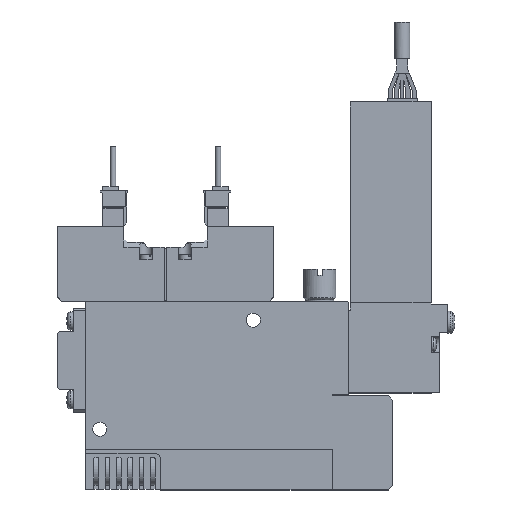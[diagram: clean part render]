
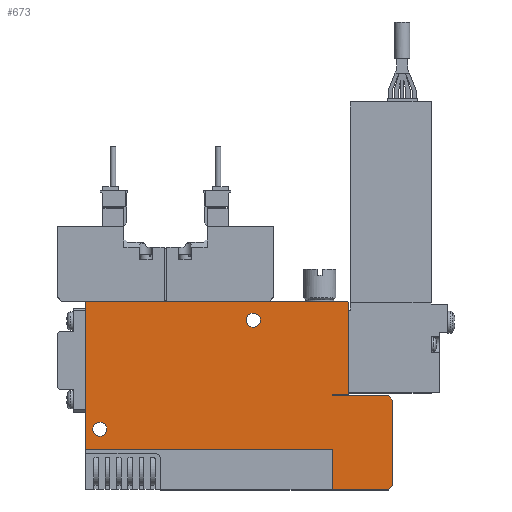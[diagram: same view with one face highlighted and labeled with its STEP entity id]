
A CAD part, top view. The second image highlights one B-rep face of the part: STEP entity #673.
In plain terms, the highlighted planar face has unit normal (0, 0, 1).
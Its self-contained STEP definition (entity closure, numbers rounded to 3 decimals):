
#673=ADVANCED_FACE('',(#1593,#1594,#1595),#1596,.F.);
#1593=FACE_OUTER_BOUND('',#2714,.T.);
#1594=FACE_BOUND('',#2715,.T.);
#1595=FACE_BOUND('',#2716,.T.);
#1596=PLANE('',#2717);
#2714=EDGE_LOOP('',(#5938,#5939,#5940,#5941,#5942,#5943,#5944,#5945,#5946,#5947,#5948,#5949,#5950,#5951));
#2715=EDGE_LOOP('',(#5952));
#2716=EDGE_LOOP('',(#5953));
#2717=AXIS2_PLACEMENT_3D('',#5954,#5955,#5956);
#5938=ORIENTED_EDGE('',*,*,#8325,.T.);
#5939=ORIENTED_EDGE('',*,*,#8326,.F.);
#5940=ORIENTED_EDGE('',*,*,#8327,.F.);
#5941=ORIENTED_EDGE('',*,*,#8328,.T.);
#5942=ORIENTED_EDGE('',*,*,#8329,.T.);
#5943=ORIENTED_EDGE('',*,*,#8330,.T.);
#5944=ORIENTED_EDGE('',*,*,#8331,.T.);
#5945=ORIENTED_EDGE('',*,*,#8332,.T.);
#5946=ORIENTED_EDGE('',*,*,#8333,.T.);
#5947=ORIENTED_EDGE('',*,*,#8334,.T.);
#5948=ORIENTED_EDGE('',*,*,#8335,.T.);
#5949=ORIENTED_EDGE('',*,*,#8307,.T.);
#5950=ORIENTED_EDGE('',*,*,#8336,.T.);
#5951=ORIENTED_EDGE('',*,*,#8337,.T.);
#5952=ORIENTED_EDGE('',*,*,#8338,.F.);
#5953=ORIENTED_EDGE('',*,*,#8339,.F.);
#5954=CARTESIAN_POINT('',(0.0,0.0,5.0));
#5955=DIRECTION('',(0.0,0.0,-1.0));
#5956=DIRECTION('',(0.0,-1.0,0.0));
#8307=EDGE_CURVE('',#10303,#10301,#10304,.T.);
#8325=EDGE_CURVE('',#10337,#10338,#10339,.T.);
#8326=EDGE_CURVE('',#10340,#10338,#10341,.T.);
#8327=EDGE_CURVE('',#10342,#10340,#10343,.T.);
#8328=EDGE_CURVE('',#10342,#10344,#10345,.T.);
#8329=EDGE_CURVE('',#10344,#10346,#10347,.T.);
#8330=EDGE_CURVE('',#10346,#10348,#10349,.T.);
#8331=EDGE_CURVE('',#10348,#10350,#10351,.T.);
#8332=EDGE_CURVE('',#10350,#10352,#10353,.T.);
#8333=EDGE_CURVE('',#10352,#10354,#10355,.T.);
#8334=EDGE_CURVE('',#10354,#10356,#10357,.T.);
#8335=EDGE_CURVE('',#10356,#10303,#10358,.T.);
#8336=EDGE_CURVE('',#10301,#10359,#10360,.T.);
#8337=EDGE_CURVE('',#10359,#10337,#10361,.T.);
#8338=EDGE_CURVE('',#10362,#10362,#10363,.T.);
#8339=EDGE_CURVE('',#10364,#10364,#10365,.T.);
#10301=VERTEX_POINT('',#13566);
#10303=VERTEX_POINT('',#13569);
#10304=LINE('',#13570,#13571);
#10337=VERTEX_POINT('',#13618);
#10338=VERTEX_POINT('',#13619);
#10339=LINE('',#13620,#13621);
#10340=VERTEX_POINT('',#13622);
#10341=LINE('',#13623,#13624);
#10342=VERTEX_POINT('',#13625);
#10343=LINE('',#13626,#13627);
#10344=VERTEX_POINT('',#13628);
#10345=LINE('',#13629,#13630);
#10346=VERTEX_POINT('',#13631);
#10347=LINE('',#13632,#13633);
#10348=VERTEX_POINT('',#13634);
#10349=LINE('',#13635,#13636);
#10350=VERTEX_POINT('',#13637);
#10351=LINE('',#13638,#13639);
#10352=VERTEX_POINT('',#13640);
#10353=LINE('',#13641,#13642);
#10354=VERTEX_POINT('',#13643);
#10355=LINE('',#13644,#13645);
#10356=VERTEX_POINT('',#13646);
#10357=LINE('',#13647,#13648);
#10358=LINE('',#13649,#13650);
#10359=VERTEX_POINT('',#13651);
#10360=LINE('',#13652,#13653);
#10361=LINE('',#13654,#13655);
#10362=VERTEX_POINT('',#13656);
#10363=CIRCLE('',#13657,1.75);
#10364=VERTEX_POINT('',#13658);
#10365=CIRCLE('',#13659,1.75);
#13566=CARTESIAN_POINT('',(64.8,46.6,5.0));
#13569=CARTESIAN_POINT('',(65.0,46.4,5.0));
#13570=CARTESIAN_POINT('',(65.0,46.4,5.0));
#13571=VECTOR('',#16154,1.0);
#13618=CARTESIAN_POINT('',(0.0,46.4,5.0));
#13619=CARTESIAN_POINT('',(0.0,10.1,5.0));
#13620=CARTESIAN_POINT('',(0.0,46.4,5.0));
#13621=VECTOR('',#16178,1.0);
#13622=CARTESIAN_POINT('',(61.1,10.1,5.0));
#13623=CARTESIAN_POINT('',(61.1,10.1,5.0));
#13624=VECTOR('',#16179,1.0);
#13625=CARTESIAN_POINT('',(61.1,0.0,5.0));
#13626=CARTESIAN_POINT('',(61.1,0.0,5.0));
#13627=VECTOR('',#16180,1.0);
#13628=CARTESIAN_POINT('',(75.0,0.0,5.0));
#13629=CARTESIAN_POINT('',(0.0,0.0,5.0));
#13630=VECTOR('',#16181,1.0);
#13631=CARTESIAN_POINT('',(76.0,1.0,5.0));
#13632=CARTESIAN_POINT('',(75.0,0.0,5.0));
#13633=VECTOR('',#16182,1.0);
#13634=CARTESIAN_POINT('',(76.0,22.25,5.0));
#13635=CARTESIAN_POINT('',(76.0,1.0,5.0));
#13636=VECTOR('',#16183,1.0);
#13637=CARTESIAN_POINT('',(75.0,23.25,5.0));
#13638=CARTESIAN_POINT('',(76.0,22.25,5.0));
#13639=VECTOR('',#16184,1.0);
#13640=CARTESIAN_POINT('',(61.0,23.25,5.0));
#13641=CARTESIAN_POINT('',(75.0,23.25,5.0));
#13642=VECTOR('',#16185,1.0);
#13643=CARTESIAN_POINT('',(61.0,23.5,5.0));
#13644=CARTESIAN_POINT('',(61.0,23.25,5.0));
#13645=VECTOR('',#16186,1.0);
#13646=CARTESIAN_POINT('',(65.0,23.5,5.0));
#13647=CARTESIAN_POINT('',(61.0,23.5,5.0));
#13648=VECTOR('',#16187,1.0);
#13649=CARTESIAN_POINT('',(65.0,23.5,5.0));
#13650=VECTOR('',#16188,1.0);
#13651=CARTESIAN_POINT('',(0.2,46.6,5.0));
#13652=CARTESIAN_POINT('',(64.8,46.6,5.0));
#13653=VECTOR('',#16189,1.0);
#13654=CARTESIAN_POINT('',(0.2,46.6,5.0));
#13655=VECTOR('',#16190,1.0);
#13656=CARTESIAN_POINT('',(5.25,15.0,5.0));
#13657=AXIS2_PLACEMENT_3D('',#16191,#16192,#16193);
#13658=CARTESIAN_POINT('',(43.25,42.0,5.0));
#13659=AXIS2_PLACEMENT_3D('',#16194,#16195,#16196);
#16154=DIRECTION('',(-0.707,0.707,0.0));
#16178=DIRECTION('',(0.0,-1.0,0.0));
#16179=DIRECTION('',(-1.0,0.0,0.0));
#16180=DIRECTION('',(0.0,1.0,0.0));
#16181=DIRECTION('',(1.0,0.0,0.0));
#16182=DIRECTION('',(0.707,0.707,0.0));
#16183=DIRECTION('',(0.0,1.0,0.0));
#16184=DIRECTION('',(-0.707,0.707,0.0));
#16185=DIRECTION('',(-1.0,0.0,0.0));
#16186=DIRECTION('',(0.0,1.0,0.0));
#16187=DIRECTION('',(1.0,0.,0.0));
#16188=DIRECTION('',(0.0,1.0,0.0));
#16189=DIRECTION('',(-1.0,0.0,0.0));
#16190=DIRECTION('',(-0.707,-0.707,0.0));
#16191=CARTESIAN_POINT('',(3.5,15.0,5.0));
#16192=DIRECTION('',(0.0,0.0,1.0));
#16193=DIRECTION('',(1.0,0.0,0.0));
#16194=CARTESIAN_POINT('',(41.5,42.0,5.0));
#16195=DIRECTION('',(0.0,0.0,1.0));
#16196=DIRECTION('',(1.0,0.0,0.0));
